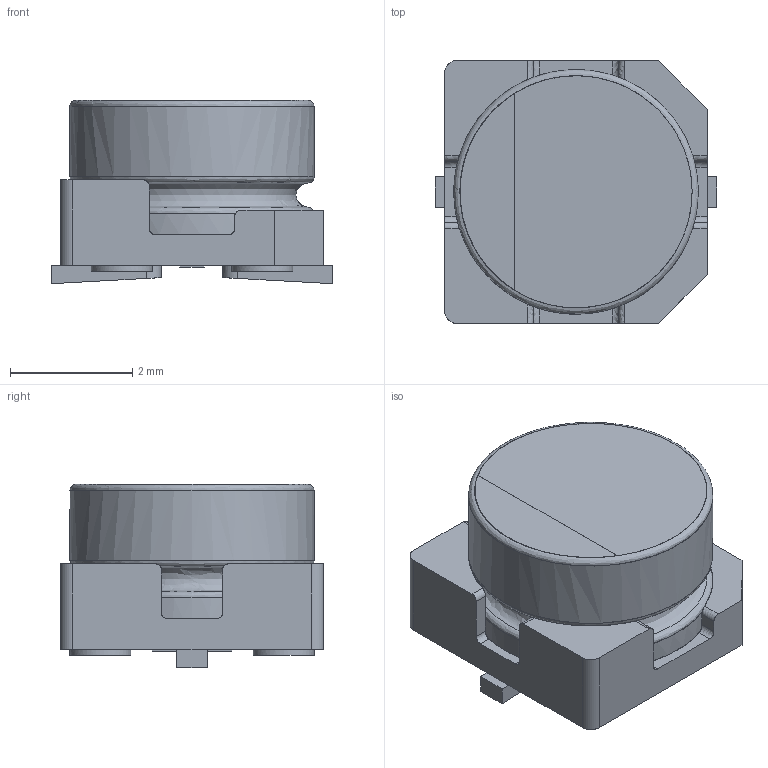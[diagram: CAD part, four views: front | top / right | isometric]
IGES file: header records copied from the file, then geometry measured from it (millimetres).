
Start section: JAMA-IS VERSION  1.0
Bounding box: 4.6 x 4.3 x 3 mm (x, y, z)
Surface area: 124.2 mm2 (no closed solid volume)
Topology: 0 solids, 0 shells, 81 faces, 922 edges, 904 vertices
Faces by surface type: bspline 81
